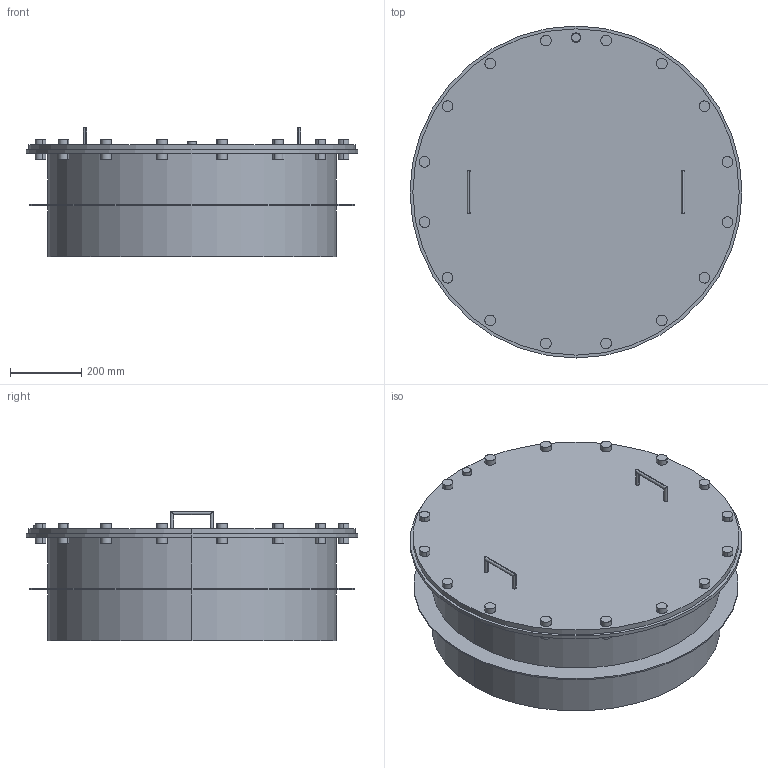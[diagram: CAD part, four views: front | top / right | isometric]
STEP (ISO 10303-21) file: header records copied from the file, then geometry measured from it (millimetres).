
FILE_DESCRIPTION((''),'2;1');
FILE_NAME('51792190','2022-03-03T11:36:27',('ka'),('HUBER SE'),'CREO PARAMETRIC BY PTC INC, 2021304','CREO PARAMETRIC BY PTC INC, 2021304','');
FILE_SCHEMA(('AUTOMOTIVE_DESIGN { 1 0 10303 214 1 1 1 1 }'));
Length unit declared in the file: millimetre
Products named in the file (1): 51792190
Bounding box: 931 x 931 x 364 mm (x, y, z)
Volume: 15532155 mm3; surface area: 3265706 mm2
Topology: 1 solids, 1 shells, 133 faces, 276 edges, 184 vertices
Faces by surface type: cylinder 92, plane 41
Entity records: 5284 total; most frequent: CARTESIAN_POINT 939, DIRECTION 694, ORIENTED_EDGE 552, AXIS2_PLACEMENT_3D 301, EDGE_CURVE 276, VERTEX_POINT 184, EDGE_LOOP 176, CIRCLE 168
